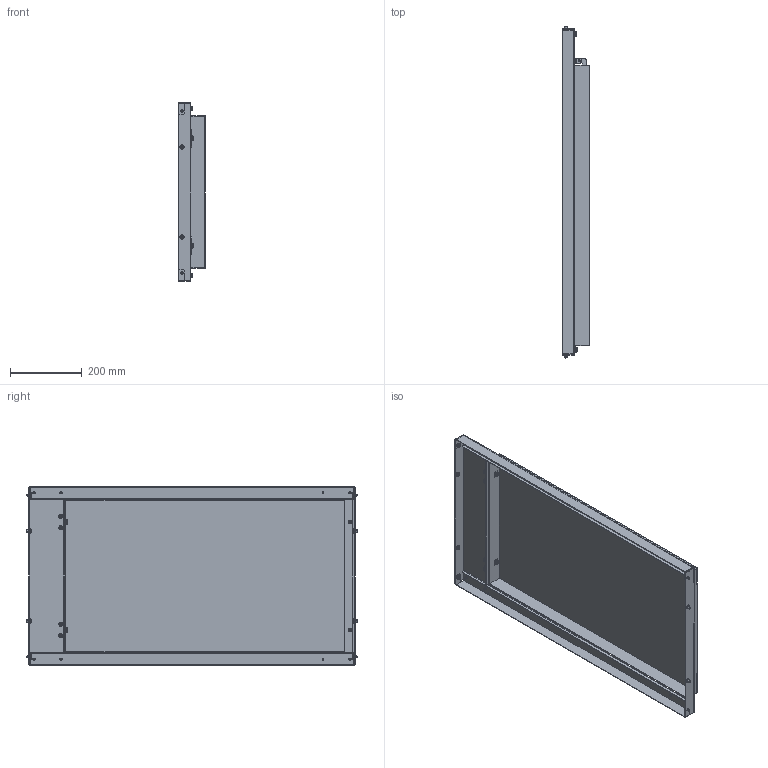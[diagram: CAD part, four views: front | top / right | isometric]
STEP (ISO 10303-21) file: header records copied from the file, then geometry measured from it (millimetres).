
FILE_DESCRIPTION (( 'STEP AP214' ), '1' );
FILE_NAME ('FO-00-MPR-050-100 Ïàíåëü ìîíòàæíàÿ ïîâîðîòíàÿ 500õ1000 ìì.STEP', '2025-08-20T07:38:13', ( '' ), ( '' ), 'SwSTEP 2.0', 'SolidWorks 2023', '' );
FILE_SCHEMA (( 'AUTOMOTIVE_DESIGN' ));
Length unit declared in the file: millimetre
Products named in the file (3): FO-00-MPR-050-100 Панель монтажная поворотная 500х1000 мм; Панель монтажная поворотная 500х1000 мм; Панель монтажная 500х1000 мм
Assembly tree (2 placements, depth 2):
  FO-00-MPR-050-100 Панель монтажная поворотная 500х1000 мм
    Панель монтажная 500х1000 мм
    Панель монтажная поворотная 500х1000 мм
Bounding box: 73 x 922.9 x 496 mm (x, y, z)
Volume: 1284332.5 mm3; surface area: 1345851.2 mm2
Topology: 2 solids, 18 shells, 1020 faces, 2534 edges, 1632 vertices
Faces by surface type: cylinder 536, plane 304, cone 92, torus 88
Entity records: 31258 total; most frequent: DIRECTION 5920, CARTESIAN_POINT 5539, ORIENTED_EDGE 5068, EDGE_CURVE 2534, AXIS2_PLACEMENT_3D 2377, VERTEX_POINT 1632, CIRCLE 1352, EDGE_LOOP 1168
